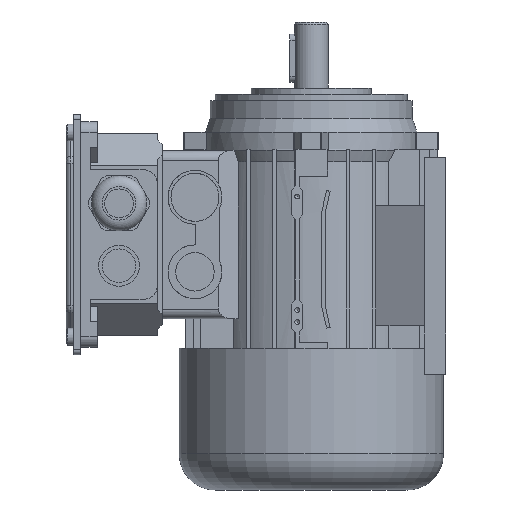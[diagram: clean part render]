
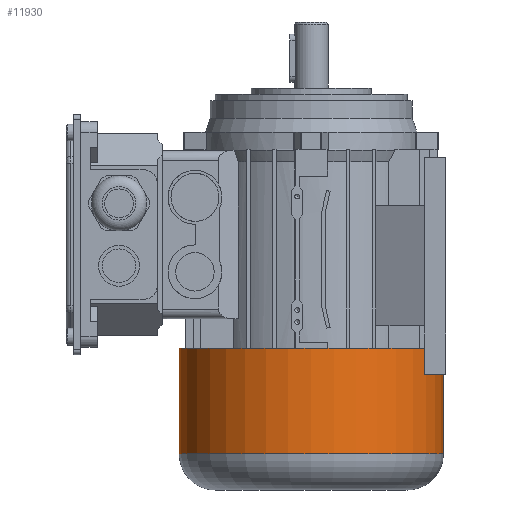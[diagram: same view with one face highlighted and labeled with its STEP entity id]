
A CAD part, left-side view. The second image highlights one B-rep face of the part: STEP entity #11930.
In plain terms, the highlighted cylindrical face has radius 55 mm (diameter 110 mm), a full revolution.
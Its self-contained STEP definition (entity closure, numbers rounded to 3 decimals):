
#354=CYLINDRICAL_SURFACE('',#12948,55.);
#496=FACE_BOUND('',#2180,.T.);
#867=CIRCLE('',#12940,55.);
#872=CIRCLE('',#12949,55.);
#1453=FACE_OUTER_BOUND('',#2179,.T.);
#2179=EDGE_LOOP('',(#10048));
#2180=EDGE_LOOP('',(#10049));
#5621=VERTEX_POINT('',#19839);
#5626=VERTEX_POINT('',#19853);
#7201=EDGE_CURVE('',#5621,#5621,#867,.T.);
#7206=EDGE_CURVE('',#5626,#5626,#872,.T.);
#10048=ORIENTED_EDGE('',*,*,#7201,.F.);
#10049=ORIENTED_EDGE('',*,*,#7206,.F.);
#11930=ADVANCED_FACE('',(#1453,#496),#354,.T.);
#12940=AXIS2_PLACEMENT_3D('',#19840,#15743,#15744);
#12948=AXIS2_PLACEMENT_3D('',#19852,#15759,#15760);
#12949=AXIS2_PLACEMENT_3D('',#19854,#15761,#15762);
#15743=DIRECTION('center_axis',(0.,0.,1.));
#15744=DIRECTION('ref_axis',(-1.,0.,0.));
#15759=DIRECTION('center_axis',(0.,0.,1.));
#15760=DIRECTION('ref_axis',(0.,1.,0.));
#15761=DIRECTION('center_axis',(0.,0.,-1.));
#15762=DIRECTION('ref_axis',(0.,-1.,0.));
#19839=CARTESIAN_POINT('',(0.,55.,-37.));
#19840=CARTESIAN_POINT('Origin',(0.,0.,-37.));
#19852=CARTESIAN_POINT('Origin',(0.,0.,-66.5));
#19853=CARTESIAN_POINT('',(0.,55.,-81.));
#19854=CARTESIAN_POINT('Origin',(0.,0.,-81.));
